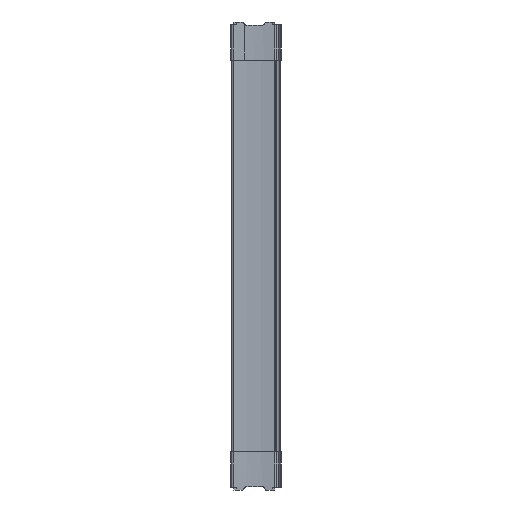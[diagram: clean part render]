
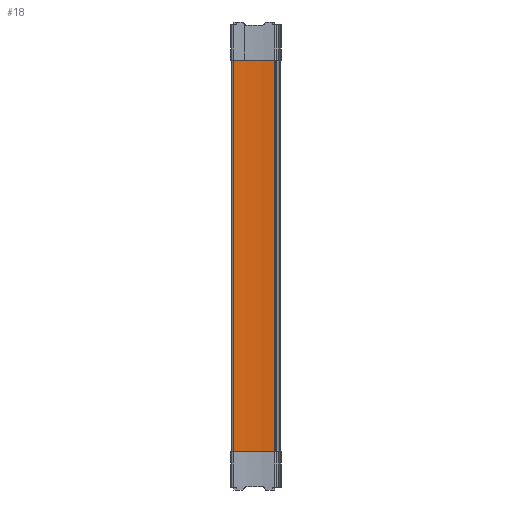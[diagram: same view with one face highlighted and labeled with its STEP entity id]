
A CAD part, left-side view. The second image highlights one B-rep face of the part: STEP entity #18.
In plain terms, the highlighted cylindrical face has radius 250 mm (diameter 500 mm), a partial arc.
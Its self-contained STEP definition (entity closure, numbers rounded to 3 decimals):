
#18 = ADVANCED_FACE ( 'NONE', ( #896 ), #893, .F. ) ;
#394 = CIRCLE ( 'NONE', #3172, 250. ) ;
#397 = CIRCLE ( 'NONE', #3176, 250. ) ;
#399 = VECTOR ( 'NONE', #3551, 1000. ) ;
#406 = LINE ( 'NONE', #3550, #399 ) ;
#601 = VECTOR ( 'NONE', #2181, 1000. ) ;
#602 = LINE ( 'NONE', #2180, #601 ) ;
#893 = CYLINDRICAL_SURFACE ( 'NONE', #3000, 250. ) ;
#896 = FACE_OUTER_BOUND ( 'NONE', #1039, .T. ) ;
#1039 = EDGE_LOOP ( 'NONE', ( #2465, #2464, #2463, #2462 ) ) ;
#1188 = EDGE_CURVE ( 'NONE', #1729, #1720, #602, .T. ) ;
#1318 = EDGE_CURVE ( 'NONE', #1729, #1651, #397, .T. ) ;
#1319 = EDGE_CURVE ( 'NONE', #1651, #1650, #406, .T. ) ;
#1320 = EDGE_CURVE ( 'NONE', #1650, #1720, #394, .T. ) ;
#1462 = DIRECTION ( 'NONE',  ( -1., 0., 0. ) ) ;
#1463 = DIRECTION ( 'NONE',  ( 0., 0., -1. ) ) ;
#1464 = CARTESIAN_POINT ( 'NONE',  ( -255.319, 48.963, 268.5 ) ) ;
#1650 = VERTEX_POINT ( 'NONE', #3922 ) ;
#1651 = VERTEX_POINT ( 'NONE', #3923 ) ;
#1720 = VERTEX_POINT ( 'NONE', #3992 ) ;
#1729 = VERTEX_POINT ( 'NONE', #4001 ) ;
#2180 = CARTESIAN_POINT ( 'NONE',  ( -5.747, 63.571, 268.5 ) ) ;
#2181 = DIRECTION ( 'NONE',  ( 0., 0., -1. ) ) ;
#2462 = ORIENTED_EDGE ( 'NONE', *, *, #1188, .T. ) ;
#2463 = ORIENTED_EDGE ( 'NONE', *, *, #1318, .F. ) ;
#2464 = ORIENTED_EDGE ( 'NONE', *, *, #1319, .F. ) ;
#2465 = ORIENTED_EDGE ( 'NONE', *, *, #1320, .F. ) ;
#3000 = AXIS2_PLACEMENT_3D ( 'NONE', #1464, #1463, #1462 ) ;
#3172 = AXIS2_PLACEMENT_3D ( 'NONE', #3552, #3554, #3555 ) ;
#3176 = AXIS2_PLACEMENT_3D ( 'NONE', #3542, #3547, #3548 ) ;
#3542 = CARTESIAN_POINT ( 'NONE',  ( -255.319, 48.963, 262.5 ) ) ;
#3547 = DIRECTION ( 'NONE',  ( 0., 0., -1. ) ) ;
#3548 = DIRECTION ( 'NONE',  ( 1., 0., 0. ) ) ;
#3550 = CARTESIAN_POINT ( 'NONE',  ( -8.643, 8.331, 268.5 ) ) ;
#3551 = DIRECTION ( 'NONE',  ( 0., 0., -1. ) ) ;
#3552 = CARTESIAN_POINT ( 'NONE',  ( -255.319, 48.963, -262.5 ) ) ;
#3554 = DIRECTION ( 'NONE',  ( 0., 0., 1. ) ) ;
#3555 = DIRECTION ( 'NONE',  ( -1., 0., 0. ) ) ;
#3922 = CARTESIAN_POINT ( 'NONE',  ( -8.643, 8.331, -262.5 ) ) ;
#3923 = CARTESIAN_POINT ( 'NONE',  ( -8.643, 8.331, 262.5 ) ) ;
#3992 = CARTESIAN_POINT ( 'NONE',  ( -5.747, 63.571, -262.5 ) ) ;
#4001 = CARTESIAN_POINT ( 'NONE',  ( -5.747, 63.571, 262.5 ) ) ;
